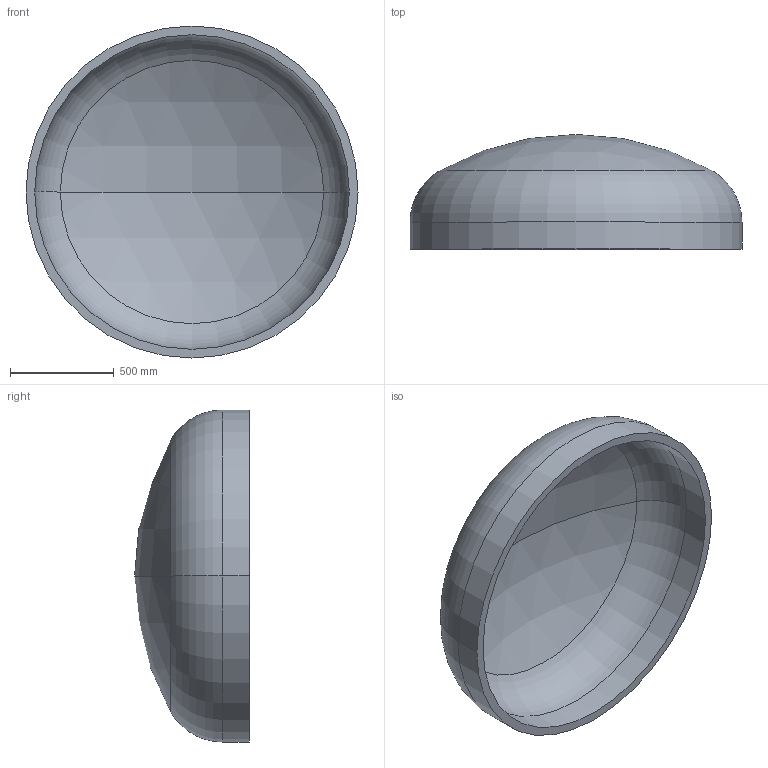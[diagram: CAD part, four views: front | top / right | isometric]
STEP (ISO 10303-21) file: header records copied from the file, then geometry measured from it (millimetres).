
FILE_DESCRIPTION (( 'STEP AP203' ), '1' );
FILE_NAME ('DIN 28013 Korbbogenform_-_Boden DIN 28013 - 1600 x 130 - I - s=42.step', '2016-07-01T11:16:22', ( '' ), ( '' ), 'SwSTEP 2.0', 'SolidWorks 2013', '' );
FILE_SCHEMA (( 'CONFIG_CONTROL_DESIGN' ));
Length unit declared in the file: millimetre
Products named in the file (1): DIN 28013 Korbbogenform_-_Boden DIN 28013 - 1600 x 130 - I - s=42
Bounding box: 1600 x 553.08 x 1600 mm (x, y, z)
Volume: 139598162.5 mm3; surface area: 6856797.4 mm2
Topology: 1 solids, 1 shells, 13 faces, 24 edges, 14 vertices
Faces by surface type: torus 4, cylinder 4, sphere 4, plane 1
Entity records: 407 total; most frequent: DIRECTION 72, CARTESIAN_POINT 52, ORIENTED_EDGE 48, AXIS2_PLACEMENT_3D 34, EDGE_CURVE 24, CIRCLE 20, EDGE_LOOP 14, VERTEX_POINT 14
